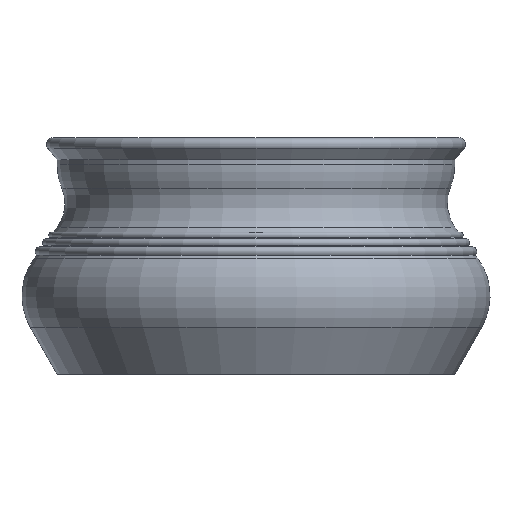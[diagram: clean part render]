
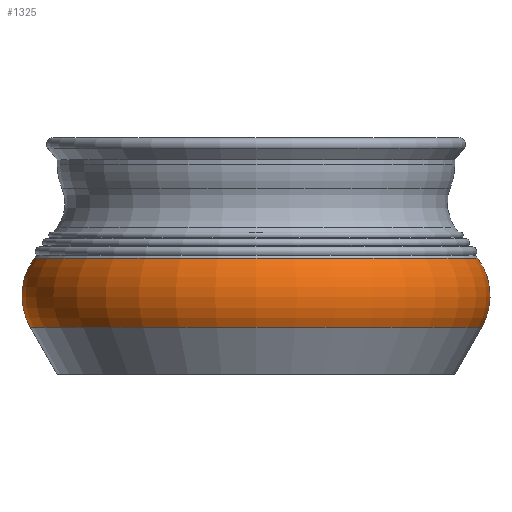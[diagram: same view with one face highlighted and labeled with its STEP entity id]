
A CAD part, front view. The second image highlights one B-rep face of the part: STEP entity #1325.
In plain terms, the highlighted toroidal (fillet/blend) face has major radius 126.136 mm and minor radius 46.864 mm.
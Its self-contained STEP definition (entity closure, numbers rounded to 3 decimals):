
#22=TOROIDAL_SURFACE('',#1505,126.136,46.864);
#166=FACE_OUTER_BOUND('',#284,.T.);
#284=EDGE_LOOP('',(#1208,#1209,#1210,#1211));
#526=CIRCLE('',#1467,166.841);
#549=CIRCLE('',#1506,163.901);
#550=CIRCLE('',#1507,46.864);
#653=VERTEX_POINT('',#2240);
#669=VERTEX_POINT('',#2303);
#818=EDGE_CURVE('',#653,#653,#526,.T.);
#849=EDGE_CURVE('',#669,#669,#549,.T.);
#850=EDGE_CURVE('',#669,#653,#550,.T.);
#1208=ORIENTED_EDGE('',*,*,#849,.F.);
#1209=ORIENTED_EDGE('',*,*,#850,.T.);
#1210=ORIENTED_EDGE('',*,*,#818,.T.);
#1211=ORIENTED_EDGE('',*,*,#850,.F.);
#1325=ADVANCED_FACE('',(#166),#22,.T.);
#1467=AXIS2_PLACEMENT_3D('',#2241,#1837,#1838);
#1505=AXIS2_PLACEMENT_3D('',#2302,#1921,#1922);
#1506=AXIS2_PLACEMENT_3D('',#2304,#1923,#1924);
#1507=AXIS2_PLACEMENT_3D('',#2305,#1925,#1926);
#1837=DIRECTION('center_axis',(0.,0.,1.));
#1838=DIRECTION('ref_axis',(1.,0.,0.));
#1921=DIRECTION('center_axis',(0.,0.,1.));
#1922=DIRECTION('ref_axis',(1.,0.,0.));
#1923=DIRECTION('center_axis',(0.,0.,1.));
#1924=DIRECTION('ref_axis',(1.,0.,0.));
#1925=DIRECTION('center_axis',(0.,-1.,0.));
#1926=DIRECTION('ref_axis',(-1.,0.,0.));
#2240=CARTESIAN_POINT('',(-166.841,0.,34.776));
#2241=CARTESIAN_POINT('Origin',(0.,0.,34.776));
#2302=CARTESIAN_POINT('Origin',(0.,0.,58.));
#2303=CARTESIAN_POINT('',(-163.901,0.,85.75));
#2304=CARTESIAN_POINT('Origin',(0.,0.,85.75));
#2305=CARTESIAN_POINT('Origin',(-126.136,0.,
58.));
